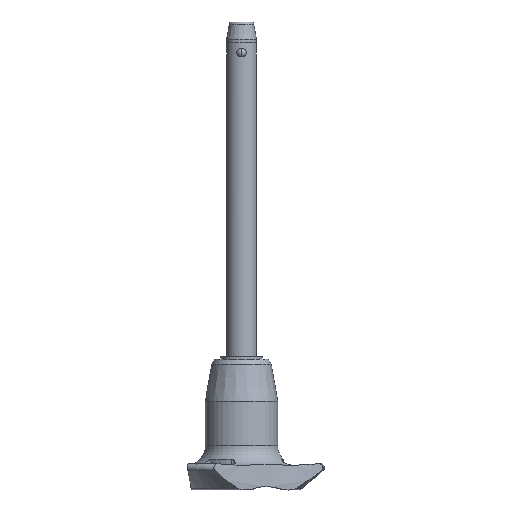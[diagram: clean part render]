
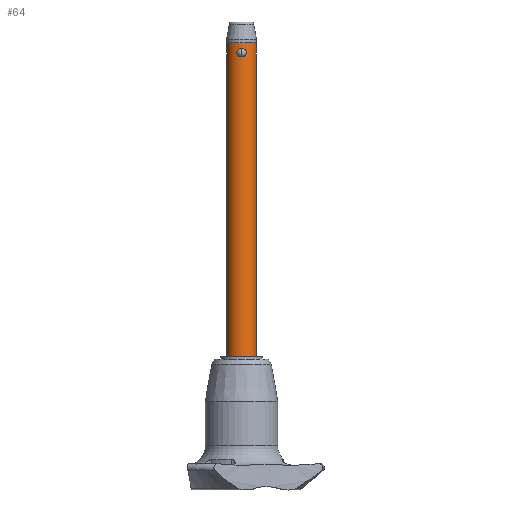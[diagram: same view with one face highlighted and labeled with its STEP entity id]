
A CAD part, front view. The second image highlights one B-rep face of the part: STEP entity #64.
In plain terms, the highlighted cylindrical face has radius 3 mm (diameter 6 mm), a partial arc.
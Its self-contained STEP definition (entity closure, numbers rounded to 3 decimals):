
#36 = CARTESIAN_POINT ( 'NONE',  ( -0.238, -2.993, 1.712 ) ) ;
#64 = ADVANCED_FACE ( 'NONE', ( #1293, #161 ), #426, .T. ) ;
#86 = CARTESIAN_POINT ( 'NONE',  ( 0.564, -2.948, 1.57 ) ) ;
#161 = FACE_BOUND ( 'NONE', #1753, .T. ) ;
#170 = VERTEX_POINT ( 'NONE', #2374 ) ;
#173 = B_SPLINE_CURVE_WITH_KNOTS ( 'NONE', 3,
 ( #2190, #269, #2615, #680, #2403, #1343, #468, #1330, #2644, #1133, #2431, #743, #2669, #86, #1810, #2022, #949, #1920 ),
 .UNSPECIFIED., .F., .F.,
 ( 4, 2, 2, 2, 2, 2, 2, 2, 4 ),
 ( 0.003, 0.003, 0.004, 0.004, 0.004, 0.005, 0.005, 0.005, 0.006 ),
 .UNSPECIFIED. ) ;
#224 = CARTESIAN_POINT ( 'NONE',  ( -0.812, -2.889, 0.414 ) ) ;
#267 = DIRECTION ( 'NONE',  ( 0., 0., 1. ) ) ;
#269 = CARTESIAN_POINT ( 'NONE',  ( 0.118, -3., 0. ) ) ;
#274 = VERTEX_POINT ( 'NONE', #1028 ) ;
#300 = CARTESIAN_POINT ( 'NONE',  ( 0., -3., 1.732 ) ) ;
#403 = CARTESIAN_POINT ( 'NONE',  ( 0., 0., -60. ) ) ;
#422 = CARTESIAN_POINT ( 'NONE',  ( -0.46, -2.967, 0.101 ) ) ;
#426 = CYLINDRICAL_SURFACE ( 'NONE', #2115, 3. ) ;
#438 = CARTESIAN_POINT ( 'NONE',  ( -0.118, -3., 0. ) ) ;
#468 = CARTESIAN_POINT ( 'NONE',  ( 0.811, -2.889, 0.412 ) ) ;
#476 = CARTESIAN_POINT ( 'NONE',  ( 0., -3., 0. ) ) ;
#587 = ORIENTED_EDGE ( 'NONE', *, *, #2377, .F. ) ;
#588 = AXIS2_PLACEMENT_3D ( 'NONE', #403, #2196, #1525 ) ;
#595 = CARTESIAN_POINT ( 'NONE',  ( 0., 0., -60. ) ) ;
#637 = CARTESIAN_POINT ( 'NONE',  ( -3., 0., 2.8 ) ) ;
#672 = CARTESIAN_POINT ( 'NONE',  ( -0.238, -2.993, 0.021 ) ) ;
#680 = CARTESIAN_POINT ( 'NONE',  ( 0.459, -2.967, 0.101 ) ) ;
#688 = CARTESIAN_POINT ( 'NONE',  ( -0.937, -2.85, 0.986 ) ) ;
#705 = CARTESIAN_POINT ( 'NONE',  ( -0.91, -2.859, 1.105 ) ) ;
#743 = CARTESIAN_POINT ( 'NONE',  ( 0.812, -2.888, 1.317 ) ) ;
#785 = LINE ( 'NONE', #1808, #1143 ) ;
#796 = EDGE_CURVE ( 'NONE', #2434, #170, #1086, .T. ) ;
#848 = CARTESIAN_POINT ( 'NONE',  ( -0.74, -2.909, 0.318 ) ) ;
#858 = AXIS2_PLACEMENT_3D ( 'NONE', #1552, #267, #1131 ) ;
#886 = CARTESIAN_POINT ( 'NONE',  ( -0.461, -2.967, 1.63 ) ) ;
#945 = EDGE_CURVE ( 'NONE', #1797, #2434, #785, .T. ) ;
#949 = CARTESIAN_POINT ( 'NONE',  ( 0.12, -3., 1.732 ) ) ;
#1028 = CARTESIAN_POINT ( 'NONE',  ( 3., 0., -60. ) ) ;
#1029 = DIRECTION ( 'NONE',  ( 0., 0., 1. ) ) ;
#1066 = VERTEX_POINT ( 'NONE', #2754 ) ;
#1069 = CARTESIAN_POINT ( 'NONE',  ( -3., 0., -60. ) ) ;
#1086 = CIRCLE ( 'NONE', #858, 3. ) ;
#1095 = CARTESIAN_POINT ( 'NONE',  ( -0.563, -2.948, 1.57 ) ) ;
#1126 = CARTESIAN_POINT ( 'NONE',  ( -0.911, -2.859, 0.63 ) ) ;
#1131 = DIRECTION ( 'NONE',  ( 1., 0., 0. ) ) ;
#1133 = CARTESIAN_POINT ( 'NONE',  ( 0.937, -2.85, 0.985 ) ) ;
#1143 = VECTOR ( 'NONE', #1413, 1000. ) ;
#1273 = CARTESIAN_POINT ( 'NONE',  ( -0.739, -2.909, 1.414 ) ) ;
#1293 = FACE_OUTER_BOUND ( 'NONE', #1692, .T. ) ;
#1330 = CARTESIAN_POINT ( 'NONE',  ( 0.91, -2.859, 0.626 ) ) ;
#1343 = CARTESIAN_POINT ( 'NONE',  ( 0.738, -2.909, 0.317 ) ) ;
#1347 = VERTEX_POINT ( 'NONE', #300 ) ;
#1413 = DIRECTION ( 'NONE',  ( 0., 0., 1. ) ) ;
#1525 = DIRECTION ( 'NONE',  ( 1., 0., 0. ) ) ;
#1545 = CARTESIAN_POINT ( 'NONE',  ( -0.564, -2.948, 0.162 ) ) ;
#1552 = CARTESIAN_POINT ( 'NONE',  ( 0., 0., 2.8 ) ) ;
#1591 = CIRCLE ( 'NONE', #588, 3. ) ;
#1682 = ORIENTED_EDGE ( 'NONE', *, *, #2466, .T. ) ;
#1692 = EDGE_LOOP ( 'NONE', ( #2180, #2505, #1682, #2512 ) ) ;
#1753 = EDGE_LOOP ( 'NONE', ( #587, #2108 ) ) ;
#1786 = CARTESIAN_POINT ( 'NONE',  ( 3., 0., -60. ) ) ;
#1797 = VERTEX_POINT ( 'NONE', #1069 ) ;
#1808 = CARTESIAN_POINT ( 'NONE',  ( -3., 0., -60. ) ) ;
#1810 = CARTESIAN_POINT ( 'NONE',  ( 0.461, -2.966, 1.63 ) ) ;
#1888 = DIRECTION ( 'NONE',  ( 1., 0., 0. ) ) ;
#1920 = CARTESIAN_POINT ( 'NONE',  ( 0., -3., 1.732 ) ) ;
#1983 = CARTESIAN_POINT ( 'NONE',  ( -0.12, -3., 1.732 ) ) ;
#2022 = CARTESIAN_POINT ( 'NONE',  ( 0.238, -2.993, 1.712 ) ) ;
#2035 = DIRECTION ( 'NONE',  ( 0., 0., 1. ) ) ;
#2040 = VECTOR ( 'NONE', #2035, 1000. ) ;
#2108 = ORIENTED_EDGE ( 'NONE', *, *, #2784, .F. ) ;
#2115 = AXIS2_PLACEMENT_3D ( 'NONE', #595, #1029, #1888 ) ;
#2180 = ORIENTED_EDGE ( 'NONE', *, *, #945, .F. ) ;
#2190 = CARTESIAN_POINT ( 'NONE',  ( 0., -3., 0. ) ) ;
#2196 = DIRECTION ( 'NONE',  ( 0., 0., -1. ) ) ;
#2344 = EDGE_CURVE ( 'NONE', #274, #1797, #1591, .T. ) ;
#2374 = CARTESIAN_POINT ( 'NONE',  ( 3., 0., 2.8 ) ) ;
#2377 = EDGE_CURVE ( 'NONE', #1347, #1066, #2531, .T. ) ;
#2378 = CARTESIAN_POINT ( 'NONE',  ( -0.811, -2.889, 1.319 ) ) ;
#2403 = CARTESIAN_POINT ( 'NONE',  ( 0.563, -2.948, 0.162 ) ) ;
#2410 = CARTESIAN_POINT ( 'NONE',  ( 0., -3., 1.732 ) ) ;
#2431 = CARTESIAN_POINT ( 'NONE',  ( 0.911, -2.859, 1.103 ) ) ;
#2434 = VERTEX_POINT ( 'NONE', #637 ) ;
#2457 = LINE ( 'NONE', #1786, #2040 ) ;
#2466 = EDGE_CURVE ( 'NONE', #274, #170, #2457, .T. ) ;
#2505 = ORIENTED_EDGE ( 'NONE', *, *, #2344, .F. ) ;
#2512 = ORIENTED_EDGE ( 'NONE', *, *, #796, .F. ) ;
#2531 = B_SPLINE_CURVE_WITH_KNOTS ( 'NONE', 3,
 ( #2410, #1983, #36, #886, #1095, #1273, #2378, #705, #688, #2779, #1126, #224, #848, #1545, #422, #672, #438, #476 ),
 .UNSPECIFIED., .F., .F.,
 ( 4, 2, 2, 2, 2, 2, 2, 2, 4 ),
 ( 0., 0., 0.001, 0.001, 0.001, 0.002, 0.002, 0.002, 0.003 ),
 .UNSPECIFIED. ) ;
#2615 = CARTESIAN_POINT ( 'NONE',  ( 0.238, -2.993, 0.021 ) ) ;
#2644 = CARTESIAN_POINT ( 'NONE',  ( 0.937, -2.85, 0.744 ) ) ;
#2669 = CARTESIAN_POINT ( 'NONE',  ( 0.74, -2.909, 1.414 ) ) ;
#2754 = CARTESIAN_POINT ( 'NONE',  ( 0., -3., 0. ) ) ;
#2779 = CARTESIAN_POINT ( 'NONE',  ( -0.937, -2.85, 0.749 ) ) ;
#2784 = EDGE_CURVE ( 'NONE', #1066, #1347, #173, .T. ) ;
